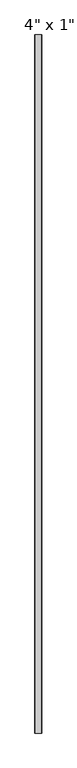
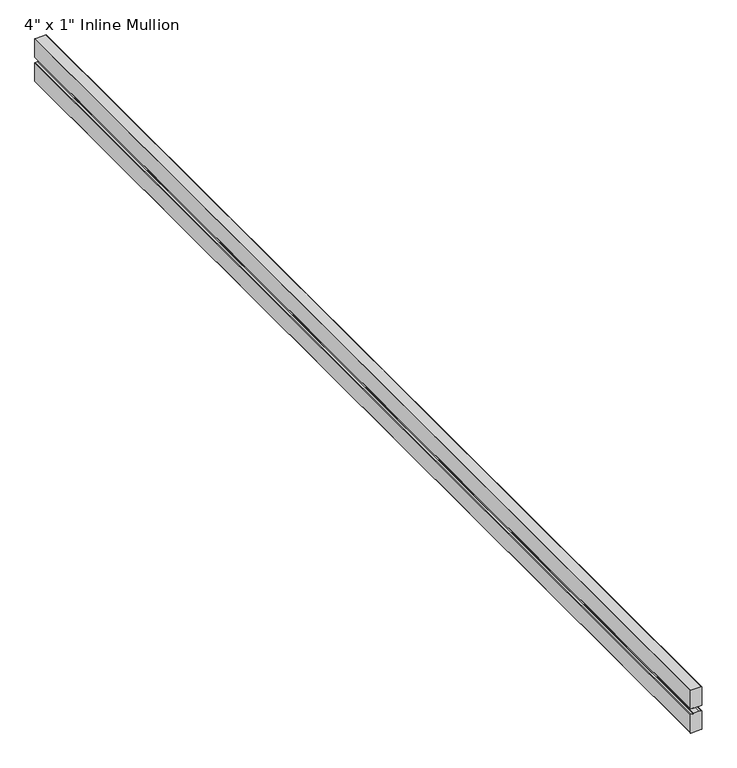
"""IFC4 building model written with IfcOpenShell, lengths in millimetres: proxy geometry."""

from ifc_helpers import new_model, si_unit, point, frame, frame_2d, origin, place, context, project, spatial, polyline, circle_curve, trimmed, segment, composite_curve, outline, extrude, source, transform, mapped, element, save


def proxy_25b1dbf0(model_context):
    return source(origin(), model_context, "Body", "SweptSolid", [
        extrude(outline(composite_curve([segment(polyline([(39.94, -11.5), (1.0, -11.5)]), True, "CONTINUOUS"), segment(trimmed(circle_curve(frame_2d((1.0, -11.0)), 0.5), [point((1.0, -11.5))], [point((0.5, -11.0))], False, "CARTESIAN"), True, "CONTINUOUS"), segment(polyline([(0.5, -11.0), (0.5, -6.75), (1.5, -6.75), (1.5, -5.7984177), (0.0, -6.0), (0.0, 6.0), (1.5, 5.7984177), (1.5, 6.75), (0.5, 6.75), (0.5, 11.0)]), True, "CONTINUOUS"), segment(trimmed(circle_curve(frame_2d((1.0, 11.0)), 0.5), [point((0.5, 11.0))], [point((1.0, 11.5))], False, "CARTESIAN"), True, "CONTINUOUS"), segment(polyline([(1.0, 11.5), (39.94, 11.5)]), True, "CONTINUOUS"), segment(trimmed(circle_curve(frame_2d((39.94, 11.0)), 0.5), [point((39.94, 11.5))], [point((40.44, 11.0))], False, "CARTESIAN"), True, "CONTINUOUS"), segment(polyline([(40.44, 11.0), (40.44, -11.0)]), True, "CONTINUOUS"), segment(trimmed(circle_curve(frame_2d((39.94, -11.0)), 0.5), [point((40.44, -11.0))], [point((39.94, -11.5))], False, "CARTESIAN"), True, "CONTINUOUS")], self_intersect=False)), frame((0.0, -1145.1332031, 0.0), z_axis=(0.0, 1.0, 0.0), x_axis=(0.0, 0.0, 1.0)), (0.0, 0.0, 1.0), 2290.2664062),
        extrude(outline(composite_curve([segment(trimmed(circle_curve(frame_2d((-11.31875, -11.0)), 0.5), [point((-10.81875, -11.0))], [point((-11.31875, -11.5))], False, "CARTESIAN"), True, "CONTINUOUS"), segment(polyline([(-11.31875, -11.5), (-50.25875, -11.5)]), True, "CONTINUOUS"), segment(trimmed(circle_curve(frame_2d((-50.25875, -11.0)), 0.5), [point((-50.25875, -11.5))], [point((-50.75875, -11.0))], False, "CARTESIAN"), True, "CONTINUOUS"), segment(polyline([(-50.75875, -11.0), (-50.75875, 11.0)]), True, "CONTINUOUS"), segment(trimmed(circle_curve(frame_2d((-50.25875, 11.0)), 0.5), [point((-50.75875, 11.0))], [point((-50.25875, 11.5))], False, "CARTESIAN"), True, "CONTINUOUS"), segment(polyline([(-50.25875, 11.5), (-11.31875, 11.5)]), True, "CONTINUOUS"), segment(trimmed(circle_curve(frame_2d((-11.31875, 11.0)), 0.5), [point((-11.31875, 11.5))], [point((-10.81875, 11.0))], False, "CARTESIAN"), True, "CONTINUOUS"), segment(polyline([(-10.81875, 11.0), (-10.81875, 6.75), (-11.81875, 6.75), (-11.81875, 5.7984177), (-10.31875, 6.0), (-10.31875, -6.0), (-11.81875, -5.7984177), (-11.81875, -6.75), (-10.81875, -6.75), (-10.81875, -11.0)]), True, "CONTINUOUS")], self_intersect=False)), frame((0.0, -1145.1332031, 0.0), z_axis=(0.0, 1.0, 0.0), x_axis=(0.0, 0.0, 1.0)), (0.0, 0.0, 1.0), 2290.2664062),
    ])


if __name__ == "__main__":
    model = new_model("IFC4")
    model_context = context("Model", 3, world=origin())
    ifc_project = project(units=[si_unit("LENGTHUNIT", "METRE", prefix="MILLI")], contexts=[model_context])
    site = spatial("IfcSite", under=ifc_project)
    building = spatial("IfcBuilding", under=site)
    placement = place(None, origin())
    proxy_shape = proxy_25b1dbf0(model_context)
    element("IfcBuildingElementProxy", 1, Name="Frame-Teknion-Architectural_Complements-FCMI_4x1_Mullion-R2016 : 4\" x 1\" Inline Mullion", ObjectType="Frame-Teknion-Architectural_Complements-FCMI_4x1_Mullion-R2016 : 4\" x 1\" Inline Mullion", at=placement, inside=building, context=model_context, shape_type="MappedRepresentation", body=[
        mapped(proxy_shape, transform((0.0, 0.0, 0.0), x_axis=(1.0, 0.0, 0.0), y_axis=(0.0, 1.0, 0.0), z_axis=(0.0, 0.0, 1.0))),
    ])
    save(model, "model.ifc")
